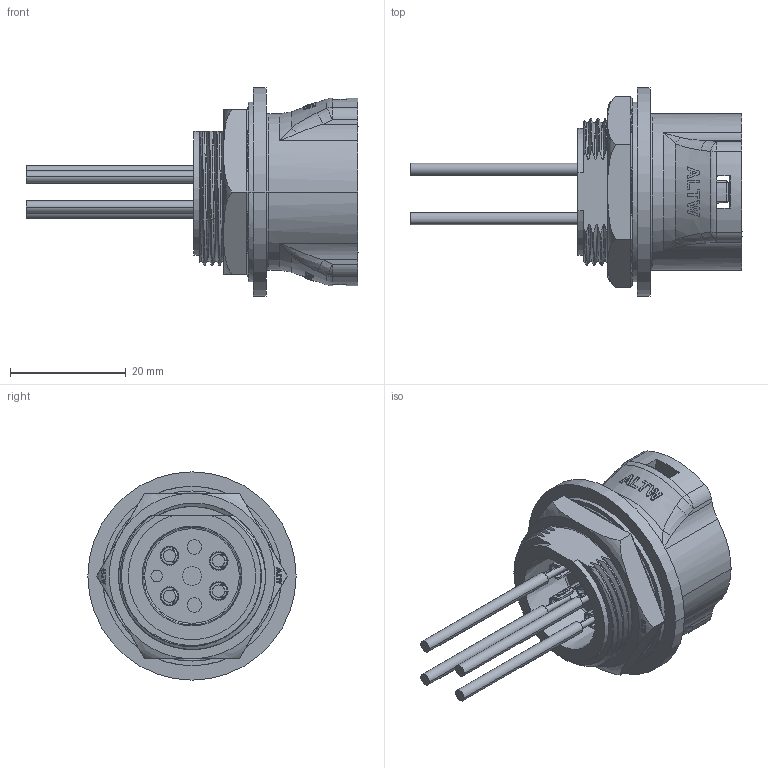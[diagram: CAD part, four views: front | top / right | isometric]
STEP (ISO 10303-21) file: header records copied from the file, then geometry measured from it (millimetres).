
FILE_DESCRIPTION((''),'2;1');
FILE_NAME('DC-XXRFMS-RC8DXX_SW0001','2020-05-20T',('L050004'),(''),'PRO/ENGINEER BY PARAMETRIC TECHNOLOGY CORPORATION, 2017170','PRO/ENGINEER BY PARAMETRIC TECHNOLOGY CORPORATION, 2017170','');
FILE_SCHEMA(('CONFIG_CONTROL_DESIGN'));
Products named in the file (1): DC-XXRFMS-RC8DXX_SW0001
Bounding box: 57.4 x 36 x 36 mm (x, y, z)
Volume: 10689.5 mm3; surface area: 10295.1 mm2
Topology: 5 solids, 5 shells, 1649 faces, 4690 edges, 3050 vertices
Faces by surface type: plane 650, cylinder 411, extrusion 252, bspline 200, torus 73, cone 45, sphere 18
Entity records: 71223 total; most frequent: CARTESIAN_POINT 30451, ORIENTED_EDGE 9380, DIRECTION 7119, EDGE_CURVE 4690, VERTEX_POINT 3050, VECTOR 2377, AXIS2_PLACEMENT_3D 2371, LINE 2125
